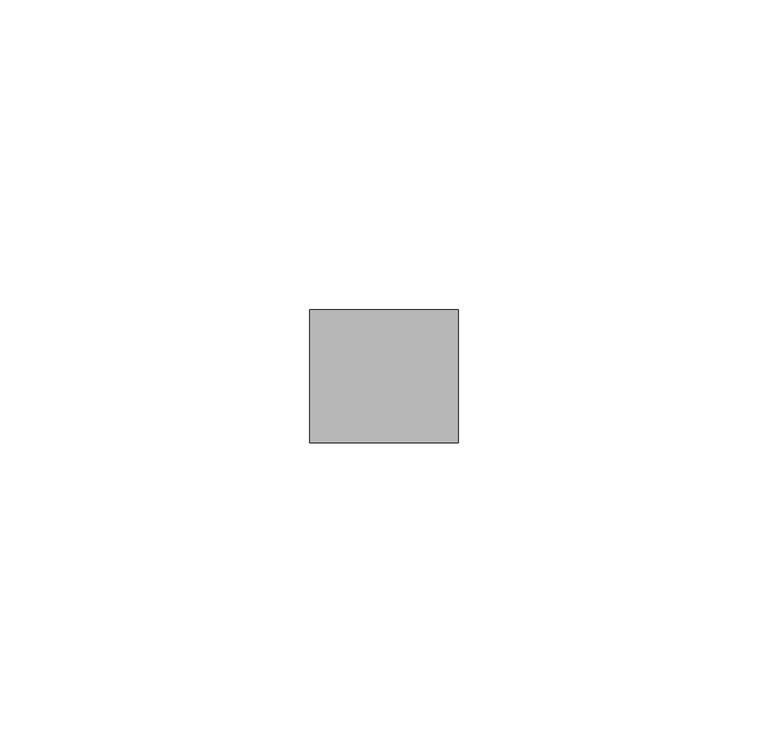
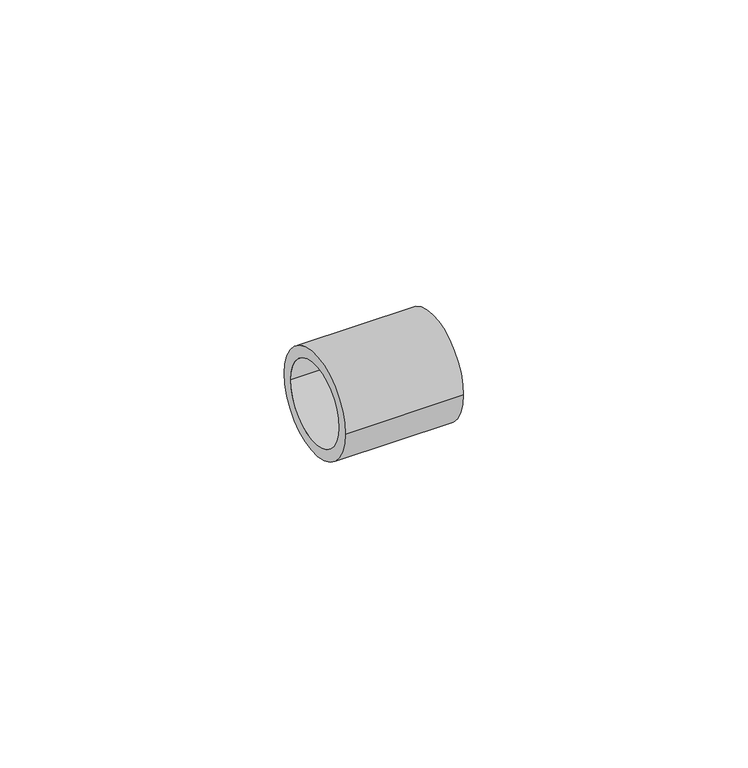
"""IFC4 building model written with IfcOpenShell, lengths in millimetres: pipe fitting geometry, RAUTITAN_Sleeve SDR 7,4 : RTI S SDR 7,4."""

from ifc_helpers import new_model, si_unit, point, frame, origin, origin_2d, place, context, project, spatial, circle_curve, trimmed, segment, composite_curve, outline, extrude, source, transform, mapped, element, save


def pipe_fitting_0746f0ab(model_context):
    return source(origin(), model_context, "Body", "SweptSolid", [
        extrude(outline(composite_curve([segment(trimmed(circle_curve(origin_2d(), 10.75), [point((-10.75, 0.0))], [point((10.75, 0.0))], False, "CARTESIAN"), True, "CONTINUOUS"), segment(trimmed(circle_curve(origin_2d(), 10.75), [point((10.75, 0.0))], [point((-10.75, 0.0))], False, "CARTESIAN"), True, "CONTINUOUS")], self_intersect=False), holes=[composite_curve([segment(trimmed(circle_curve(origin_2d(), 8.45), [point((-8.45, 0.0))], [point((8.45, 0.0))], True, "CARTESIAN"), True, "CONTINUOUS"), segment(trimmed(circle_curve(origin_2d(), 8.45), [point((8.45, 0.0))], [point((-8.45, 0.0))], True, "CARTESIAN"), True, "CONTINUOUS")], self_intersect=False)]), frame((0.0, 0.0, 0.0), z_axis=(1.0, 0.0, 0.0), x_axis=(0.0, 1.0, 0.0)), (0.0, 0.0, 1.0), 24.0),
    ])


if __name__ == "__main__":
    model = new_model("IFC4")
    model_context = context("Model", 3, world=origin())
    ifc_project = project(units=[si_unit("LENGTHUNIT", "METRE", prefix="MILLI")], contexts=[model_context])
    site = spatial("IfcSite", under=ifc_project)
    building = spatial("IfcBuilding", under=site)
    placement = place(None, origin())
    pipe_fitting_shape = pipe_fitting_0746f0ab(model_context)
    element("IfcPipeFitting", 1, ObjectType="RAUTITAN_Sleeve SDR 7,4 : RTI S SDR 7,4", at=placement, inside=building, context=model_context, shape_type="MappedRepresentation", body=[
        mapped(pipe_fitting_shape, transform((0.0, 0.0, 0.0), x_axis=(1.0, 0.0, 0.0), y_axis=(0.0, 1.0, 0.0), z_axis=(0.0, 0.0, 1.0))),
    ])
    save(model, "model.ifc")
